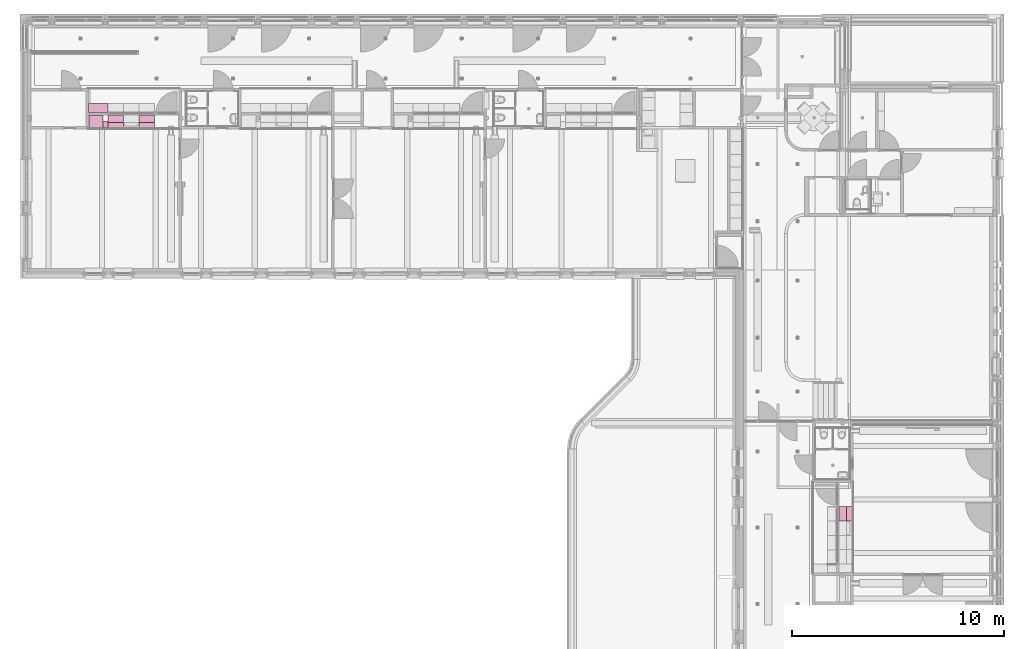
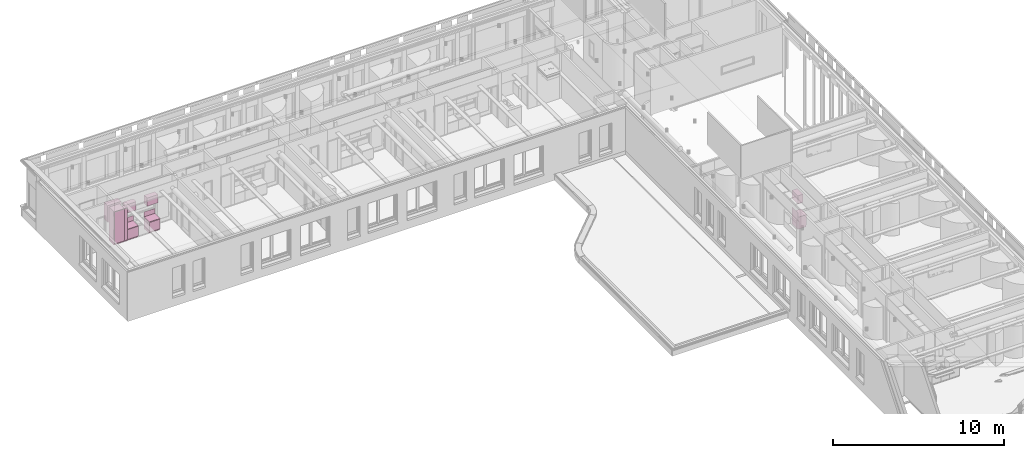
# One storey, part 87 of 128: 6 furnishings.
"""IFC2X3 building model written with IfcOpenShell, lengths in millimetres."""

from ifc_helpers import new_model, entity, si_unit, converted_unit, derived_unit, direction, frame, origin, origin_2d_with_axis, place, context, subcontext, project, spatial, polyline, rectangle, outline, extrude, source, transform, mapped, material, type_object, type_shapes, element, save


model = new_model("IFC2X3")

# Units and contexts
model_context = context("Model", 3, precision=0.01, world=origin(), true_north=direction((6.123031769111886e-17, 1.0)))
body_context = subcontext(model_context, "Body", "Model", "MODEL_VIEW")
ifc_project = project(units=[si_unit("LENGTHUNIT", "METRE", prefix="MILLI"), si_unit("AREAUNIT", "SQUARE_METRE"), si_unit("VOLUMEUNIT", "CUBIC_METRE"), converted_unit("PLANEANGLEUNIT", "DEGREE", entity("IfcRatioMeasure", 0.017453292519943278), si_unit("PLANEANGLEUNIT", "RADIAN"), dimensions=[0, 0, 0, 0, 0, 0, 0]), si_unit("MASSUNIT", "GRAM", prefix="KILO"), derived_unit("MASSDENSITYUNIT", [(si_unit("MASSUNIT", "GRAM", prefix="KILO"), 1), (si_unit("LENGTHUNIT", "METRE"), -3)]), derived_unit("IONCONCENTRATIONUNIT", [(si_unit("MASSUNIT", "GRAM", prefix="KILO"), 1), (si_unit("LENGTHUNIT", "METRE"), -3)]), derived_unit("MOMENTOFINERTIAUNIT", [(si_unit("LENGTHUNIT", "METRE"), 4)]), si_unit("TIMEUNIT", "SECOND"), si_unit("FREQUENCYUNIT", "HERTZ"), si_unit("THERMODYNAMICTEMPERATUREUNIT", "DEGREE_CELSIUS"), derived_unit("THERMALTRANSMITTANCEUNIT", [(si_unit("MASSUNIT", "GRAM", prefix="KILO"), 1), (si_unit("THERMODYNAMICTEMPERATUREUNIT", "KELVIN"), -1), (si_unit("TIMEUNIT", "SECOND"), -3)]), derived_unit("THERMALCONDUCTANCEUNIT", [(si_unit("MASSUNIT", "GRAM", prefix="KILO"), 1), (si_unit("THERMODYNAMICTEMPERATUREUNIT", "KELVIN"), -1), (si_unit("TIMEUNIT", "SECOND"), -3), (si_unit("LENGTHUNIT", "METRE"), 1)]), derived_unit("VOLUMETRICFLOWRATEUNIT", [(si_unit("LENGTHUNIT", "METRE"), 3), (si_unit("TIMEUNIT", "SECOND"), -1)]), derived_unit("MASSFLOWRATEUNIT", [(si_unit("MASSUNIT", "GRAM", prefix="KILO"), 1), (si_unit("TIMEUNIT", "SECOND"), -1)]), derived_unit("ROTATIONALFREQUENCYUNIT", [(si_unit("TIMEUNIT", "SECOND"), -1)]), si_unit("ELECTRICCURRENTUNIT", "AMPERE"), si_unit("ELECTRICVOLTAGEUNIT", "VOLT"), si_unit("POWERUNIT", "WATT"), si_unit("FORCEUNIT", "NEWTON", prefix="KILO"), si_unit("ILLUMINANCEUNIT", "LUX"), si_unit("LUMINOUSFLUXUNIT", "LUMEN"), si_unit("LUMINOUSINTENSITYUNIT", "CANDELA"), derived_unit("USERDEFINED", [(si_unit("MASSUNIT", "GRAM", prefix="KILO"), -1), (si_unit("LENGTHUNIT", "METRE"), -2), (si_unit("TIMEUNIT", "SECOND"), 3), (si_unit("LUMINOUSFLUXUNIT", "LUMEN"), 1)]), derived_unit("USERDEFINED", [(si_unit("MASSUNIT", "GRAM", prefix="KILO"), 1), (si_unit("TIMEUNIT", "SECOND"), -3), (si_unit("LENGTHUNIT", "METRE"), 3), (si_unit("ELECTRICCURRENTUNIT", "AMPERE"), -2)]), derived_unit("SOUNDPOWERUNIT", [(si_unit("MASSUNIT", "GRAM", prefix="KILO"), 1), (si_unit("TIMEUNIT", "SECOND"), -3), (si_unit("LENGTHUNIT", "METRE"), 2)]), derived_unit("SOUNDPRESSUREUNIT", [(si_unit("MASSUNIT", "GRAM", prefix="KILO"), 1), (si_unit("LENGTHUNIT", "METRE"), -1), (si_unit("TIMEUNIT", "SECOND"), -2)]), derived_unit("LINEARVELOCITYUNIT", [(si_unit("LENGTHUNIT", "METRE"), 1), (si_unit("TIMEUNIT", "SECOND"), -1)]), si_unit("PRESSUREUNIT", "PASCAL"), derived_unit("USERDEFINED", [(si_unit("MASSUNIT", "GRAM", prefix="KILO"), 1), (si_unit("LENGTHUNIT", "METRE"), -2), (si_unit("TIMEUNIT", "SECOND"), -2)]), derived_unit("LINEARFORCEUNIT", [(si_unit("MASSUNIT", "GRAM", prefix="KILO"), 1), (si_unit("TIMEUNIT", "SECOND"), -2)]), derived_unit("PLANARFORCEUNIT", [(si_unit("MASSUNIT", "GRAM", prefix="KILO"), 1), (si_unit("LENGTHUNIT", "METRE"), -1), (si_unit("TIMEUNIT", "SECOND"), -2)]), derived_unit("SPECIFICHEATCAPACITYUNIT", [(si_unit("THERMODYNAMICTEMPERATUREUNIT", "KELVIN"), -1), (si_unit("LENGTHUNIT", "METRE"), 2), (si_unit("TIMEUNIT", "SECOND"), -2)]), derived_unit("HEATINGVALUEUNIT", [(si_unit("LENGTHUNIT", "METRE"), 2), (si_unit("TIMEUNIT", "SECOND"), -2)]), derived_unit("VAPORPERMEABILITYUNIT", [(si_unit("LENGTHUNIT", "METRE"), -1), (si_unit("TIMEUNIT", "SECOND"), 1)]), derived_unit("DYNAMICVISCOSITYUNIT", [(si_unit("MASSUNIT", "GRAM", prefix="KILO"), 1), (si_unit("TIMEUNIT", "SECOND"), -1), (si_unit("LENGTHUNIT", "METRE"), -1)]), derived_unit("THERMALEXPANSIONCOEFFICIENTUNIT", [(si_unit("THERMODYNAMICTEMPERATUREUNIT", "KELVIN"), -1)]), derived_unit("MODULUSOFELASTICITYUNIT", [(si_unit("MASSUNIT", "GRAM", prefix="KILO"), 1), (si_unit("LENGTHUNIT", "METRE"), -1), (si_unit("TIMEUNIT", "SECOND"), -2)]), derived_unit("ISOTHERMALMOISTURECAPACITYUNIT", [(si_unit("LENGTHUNIT", "METRE"), 3), (si_unit("MASSUNIT", "GRAM", prefix="KILO"), -1)]), derived_unit("MOISTUREDIFFUSIVITYUNIT", [(si_unit("TIMEUNIT", "SECOND"), -1), (si_unit("LENGTHUNIT", "METRE"), 2)])], contexts=[model_context])

# Site, building, storey, space
site_placement = place(None, frame((0.0, 300.0, 0.0)))
site = spatial("IfcSite", under=ifc_project, at=site_placement, Name="<Kadastrale nummers>", CompositionType="ELEMENT")
building_placement = place(site_placement, origin())
building = spatial("IfcBuilding", under=site, at=building_placement, CompositionType="ELEMENT")
storey_placement = place(building_placement, frame((0.0, 0.0, 3560.0000331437)))
storey = spatial("IfcBuildingStorey", under=building, at=storey_placement, Name="01 eerste verdieping", CompositionType="ELEMENT", Elevation=3560.0000331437)
space_1_placement = place(storey_placement, origin())
space_1 = spatial("IfcSpace", under=storey, at=space_1_placement, Name="1.21", CompositionType="ELEMENT", InteriorOrExteriorSpace="INTERNAL")

# Furnishing
ifc_material = material(Name="ISR_HPL Kleur hout")
furniture_type_1 = type_object("IfcFurnitureType", Name="00_DAT Vaste inrichting Keukenkasten:Kast met Bovenkast B675 H850", material=ifc_material)
shared_shape_1 = source(origin(), body_context, "Body", "SweptSolid", [
    extrude(rectangle(XDim=9.999999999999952, YDim=674.9999999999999, at=origin_2d_with_axis()), frame((337.49999999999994, 5.0, 850.0), z_axis=(0.0, 0.0, 1.0), x_axis=(0.0, -1.0, 0.0)), (0.0, 0.0, 1.0), 350.00000000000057),
    extrude(outline(polyline([(-440.5, 107.50000000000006), (-440.5, -442.4999999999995), (409.4999999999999, -442.4999999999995), (409.4999999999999, 177.49999999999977), (371.4999999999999, 177.49999999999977), (371.4999999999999, 157.49999999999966), (-340.4999999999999, 157.49999999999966), (-340.4999999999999, 107.50000000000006), (-440.5, 107.50000000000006)])), frame((0.0, 442.4999999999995, 440.5), z_axis=(-1.0, 0.0, 0.0), x_axis=(0.0, 0.0, 1.0)), (0.0, 0.0, -1.0), 675.0000000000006),
    extrude(rectangle(XDim=350.0, YDim=675.0000000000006, at=origin_2d_with_axis()), frame((337.5000000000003, 175.0, 1800.0), z_axis=(0.0, 0.0, 1.0), x_axis=(0.0, -1.0, 0.0)), (0.0, 0.0, 1.0), 590.0000000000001),
])
type_shapes(furniture_type_1, [shared_shape_1])
furnishing_1_placement = place(space_1_placement, frame((41240.0, 26954.998623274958, 90.00000187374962), z_axis=(0.0, 0.0, 1.0), x_axis=(0.0, -1.0, 0.0)))
element("IfcFurnishingElement", 1, at=furnishing_1_placement, inside=space_1, type_object=furniture_type_1, material=ifc_material, Name="00_DAT Vaste inrichting Keukenkasten:Kast met Bovenkast B675 H850", ObjectType="00_DAT Vaste inrichting Keukenkasten:Kast met Bovenkast B675 H850", context=body_context, shape_type="MappedRepresentation", body=[
    mapped(shared_shape_1, transform((0.0, 0.0, 0.0), scale=1.0)),
])

# Space
space_2_placement = place(storey_placement, origin())
space_2 = spatial("IfcSpace", under=storey, at=space_2_placement, Name="1.01", CompositionType="ELEMENT", InteriorOrExteriorSpace="INTERNAL")

# Furnishings
furniture_type_2 = type_object("IfcFurnitureType", Name="00_DAT Vaste inrichting Keukenkasten:Kast met Bovenkast bovenbouw", material=ifc_material)
shared_shape_2 = source(origin(), body_context, "Body", "SweptSolid", [
    extrude(rectangle(XDim=9.999999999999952, YDim=734.9999999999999, at=origin_2d_with_axis()), frame((367.49999999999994, 5.0, 850.0), z_axis=(0.0, 0.0, 1.0), x_axis=(0.0, -1.0, 0.0)), (0.0, 0.0, 1.0), 350.00000000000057),
    extrude(outline(polyline([(-440.5, 107.50000000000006), (-440.5, -442.4999999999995), (409.4999999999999, -442.4999999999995), (409.4999999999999, 177.49999999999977), (371.4999999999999, 177.49999999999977), (371.4999999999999, 157.49999999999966), (-340.4999999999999, 157.49999999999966), (-340.4999999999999, 107.50000000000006), (-440.5, 107.50000000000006)])), frame((0.0, 442.4999999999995, 440.5), z_axis=(-1.0, 0.0, 0.0), x_axis=(0.0, 0.0, 1.0)), (0.0, 0.0, -1.0), 735.0000000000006),
    extrude(rectangle(XDim=350.0, YDim=735.0000000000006, at=origin_2d_with_axis()), frame((367.5000000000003, 175.0, 1800.0), z_axis=(0.0, 0.0, 1.0), x_axis=(0.0, -1.0, 0.0)), (0.0, 0.0, 1.0), 590.0000000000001),
])
type_shapes(furniture_type_2, [shared_shape_2])
furnishing_2_placement = place(space_2_placement, frame((8931.0, 45450.0, 90.00000187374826), z_axis=(0.0, 0.0, 1.0), x_axis=(-1.0, 0.0, 0.0)))
element("IfcFurnishingElement", 2, at=furnishing_2_placement, inside=space_2, type_object=furniture_type_2, material=ifc_material, Name="00_DAT Vaste inrichting Keukenkasten:Kast met Bovenkast bovenbouw", ObjectType="00_DAT Vaste inrichting Keukenkasten:Kast met Bovenkast bovenbouw", context=body_context, shape_type="MappedRepresentation", body=[
    mapped(shared_shape_2, transform((0.0, 0.0, 0.0), scale=1.0)),
])
furniture_type_3 = type_object("IfcFurnitureType", Name="00_DAT Vaste inrichting Keukenkasten:Kast met Bovenkast bovenbouw", material=ifc_material)
shared_shape_3 = source(origin(), body_context, "Body", "SweptSolid", [
    extrude(rectangle(XDim=9.999999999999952, YDim=734.9999999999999, at=origin_2d_with_axis()), frame((367.49999999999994, 5.0, 850.0), z_axis=(0.0, 0.0, 1.0), x_axis=(0.0, -1.0, 0.0)), (0.0, 0.0, 1.0), 350.00000000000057),
    extrude(outline(polyline([(-440.5, 107.50000000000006), (-440.5, -442.4999999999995), (409.4999999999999, -442.4999999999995), (409.4999999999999, 177.49999999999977), (371.4999999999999, 177.49999999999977), (371.4999999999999, 157.49999999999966), (-340.4999999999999, 157.49999999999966), (-340.4999999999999, 107.50000000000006), (-440.5, 107.50000000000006)])), frame((0.0, 442.4999999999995, 440.5), z_axis=(-1.0, 0.0, 0.0), x_axis=(0.0, 0.0, 1.0)), (0.0, 0.0, -1.0), 735.0000000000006),
    extrude(rectangle(XDim=350.0, YDim=735.0000000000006, at=origin_2d_with_axis()), frame((367.5000000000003, 175.0, 1800.0), z_axis=(0.0, 0.0, 1.0), x_axis=(0.0, -1.0, 0.0)), (0.0, 0.0, 1.0), 590.0000000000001),
])
type_shapes(furniture_type_3, [shared_shape_3])
furnishing_3_placement = place(space_2_placement, frame((7461.0, 45450.0, 90.00000187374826), z_axis=(0.0, 0.0, 1.0), x_axis=(-1.0, 0.0, 0.0)))
element("IfcFurnishingElement", 3, at=furnishing_3_placement, inside=space_2, type_object=furniture_type_3, material=ifc_material, Name="00_DAT Vaste inrichting Keukenkasten:Kast met Bovenkast bovenbouw", ObjectType="00_DAT Vaste inrichting Keukenkasten:Kast met Bovenkast bovenbouw", context=body_context, shape_type="MappedRepresentation", body=[
    mapped(shared_shape_3, transform((0.0, 0.0, 0.0), scale=1.0)),
])
furniture_type_4 = type_object("IfcFurnitureType", Name="00_DAT Vaste inrichting Keukenkasten hoog:Hogekast Lokaal 675B", material=ifc_material)
shared_shape_4 = source(origin(), body_context, "Body", "SweptSolid", [
    extrude(outline(polyline([(-830.0, 166.66666666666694), (-830.0, -383.3333333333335), (1560.0, -383.3333333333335), (1560.0, 216.66666666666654), (-730.0, 216.66666666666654), (-730.0, 166.66666666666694), (-830.0, 166.66666666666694)])), frame((0.0, 383.3333333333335, 830.0), z_axis=(-1.0, 0.0, 0.0), x_axis=(0.0, 0.0, 1.0)), (0.0, 0.0, -1.0), 675.0000000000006),
])
type_shapes(furniture_type_4, [shared_shape_4])
furnishing_4_placement = place(space_2_placement, frame((6500.0, 45430.0, 90.00000187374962), z_axis=(0.0, 0.0, 1.0), x_axis=(-1.0, 0.0, 0.0)))
element("IfcFurnishingElement", 4, at=furnishing_4_placement, inside=space_2, type_object=furniture_type_4, material=ifc_material, Name="00_DAT Vaste inrichting Keukenkasten hoog:Hogekast Lokaal 675B", ObjectType="00_DAT Vaste inrichting Keukenkasten hoog:Hogekast Lokaal 675B", context=body_context, shape_type="MappedRepresentation", body=[
    mapped(shared_shape_4, transform((0.0, 0.0, 0.0), scale=1.0)),
])
furniture_type_5 = type_object("IfcFurnitureType", Name="00_DAT Vaste inrichting Keukenkasten hoog:Plaat hoge kast", material=ifc_material)
shared_shape_5 = source(origin(), body_context, "Body", "SweptSolid", [
    extrude(outline(polyline([(-830.0, 66.66666666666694), (-830.0, -183.33333333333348), (1560.0, -183.33333333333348), (1560.0, 116.66666666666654), (-730.0, 116.66666666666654), (-730.0, 66.66666666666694), (-830.0, 66.66666666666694)])), frame((0.0, 183.33333333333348, 830.0), z_axis=(-1.0, 0.0, 0.0), x_axis=(0.0, 0.0, 1.0)), (0.0, 0.0, -1.0), 226.00000000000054),
])
type_shapes(furniture_type_5, [shared_shape_5])
furnishing_5_placement = place(space_2_placement, frame((6726.0, 45130.0, 90.00000187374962), z_axis=(0.0, 0.0, 1.0), x_axis=(-1.0, 0.0, 0.0)))
element("IfcFurnishingElement", 5, at=furnishing_5_placement, inside=space_2, type_object=furniture_type_5, material=ifc_material, Name="00_DAT Vaste inrichting Keukenkasten hoog:Plaat hoge kast", ObjectType="00_DAT Vaste inrichting Keukenkasten hoog:Plaat hoge kast", context=body_context, shape_type="MappedRepresentation", body=[
    mapped(shared_shape_5, transform((0.0, 0.0, 0.0), scale=1.0)),
])

# Space
space_3_placement = place(storey_placement, origin())
space_3 = spatial("IfcSpace", under=storey, at=space_3_placement, Name="1.01a", CompositionType="ELEMENT", InteriorOrExteriorSpace="INTERNAL")

# Furnishing
furniture_type_6 = type_object("IfcFurnitureType", Name="00_DAT Vaste inrichting Boven Keukenkasten:Bovenkast Gaderobe bso Hoog", material=ifc_material)
shared_shape_6 = source(origin(), body_context, "Body", "SweptSolid", [
    extrude(rectangle(XDim=415.0, YDim=920.0000000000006, at=origin_2d_with_axis()), frame((460.0, 207.5, 1200.0), z_axis=(0.0, 0.0, 1.0), x_axis=(0.0, -1.0, 0.0)), (0.0, 0.0, 1.0), 1189.9999999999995),
])
type_shapes(furniture_type_6, [shared_shape_6])
furnishing_6_placement = place(space_3_placement, frame((5806.0, 45575.0, 90.00000187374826)))
element("IfcFurnishingElement", 6, at=furnishing_6_placement, inside=space_3, type_object=furniture_type_6, material=ifc_material, Name="00_DAT Vaste inrichting Boven Keukenkasten:Bovenkast Gaderobe bso Hoog", ObjectType="00_DAT Vaste inrichting Boven Keukenkasten:Bovenkast Gaderobe bso Hoog", context=body_context, shape_type="MappedRepresentation", body=[
    mapped(shared_shape_6, transform((0.0, 0.0, 0.0), scale=1.0)),
])

save(model, "model.ifc")
